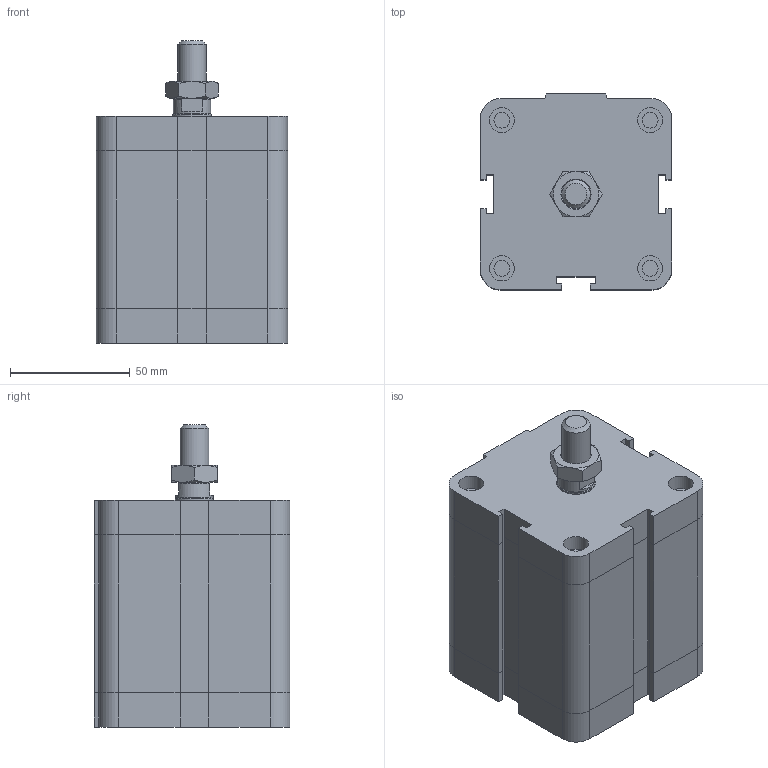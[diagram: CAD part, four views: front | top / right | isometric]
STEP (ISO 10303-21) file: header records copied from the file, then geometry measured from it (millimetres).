
FILE_DESCRIPTION((''),'2;1');
FILE_NAME('I:\Area Tecnica\Disegni\VARIE-3D\Componenti\EUROPE\15##_###_####_02_#\1581_63_0045_02_1.stp','2008-12-19T16:24:52',('rivolro1'),(''),'Autodesk Inventor 2009','Autodesk Inventor 2009','');
FILE_SCHEMA(('AUTOMOTIVE_DESIGN { 1 0 10303 214 1 1 1 1 }'));
Length unit declared in the file: millimetre
Products named in the file (4): 1581_63_0045_02_1; 1581_63_0045_01_1_C; 1561_63_0045_02_1_S; DBFM12
Assembly tree (3 placements, depth 2):
  1581_63_0045_02_1
    1581_63_0045_01_1_C
    1561_63_0045_02_1_S
    DBFM12
Bounding box: 80 x 82 x 126.5 mm (x, y, z)
Volume: 581335.6 mm3; surface area: 60753 mm2
Topology: 3 solids, 3 shells, 187 faces, 401 edges, 240 vertices
Faces by surface type: plane 121, bspline 24, cylinder 24, cone 18
Full cylindrical faces by diameter (mm): 6.647 x4, 10.5 x4, 10.8 x1, 12 x1, 15.6 x1, 16 x1
Entity records: 5080 total; most frequent: CARTESIAN_POINT 1096, DIRECTION 758, ORIENTED_EDGE 724, EDGE_CURVE 362, AXIS2_PLACEMENT_3D 254, VECTOR 250, LINE 250, EDGE_LOOP 238
